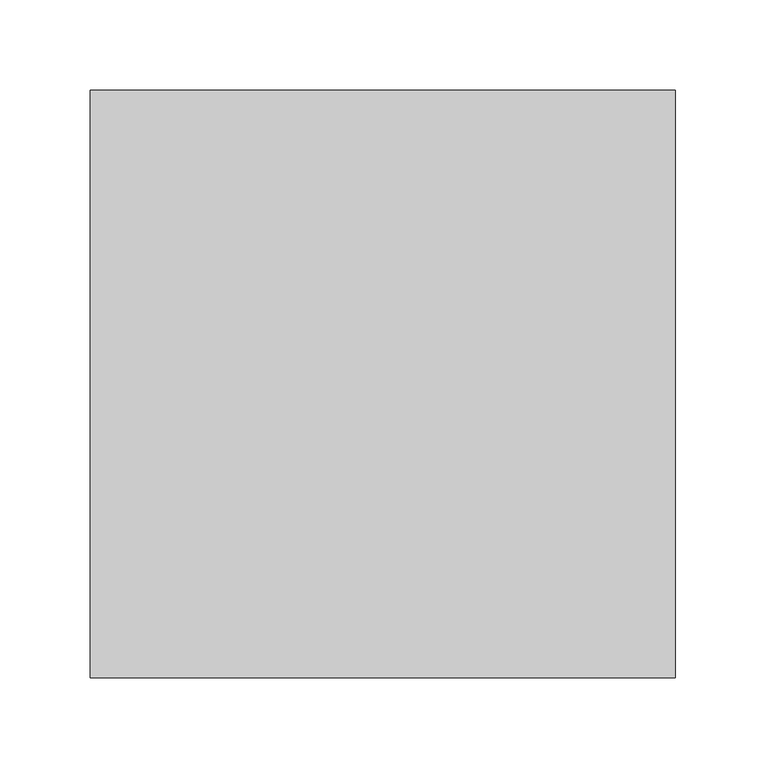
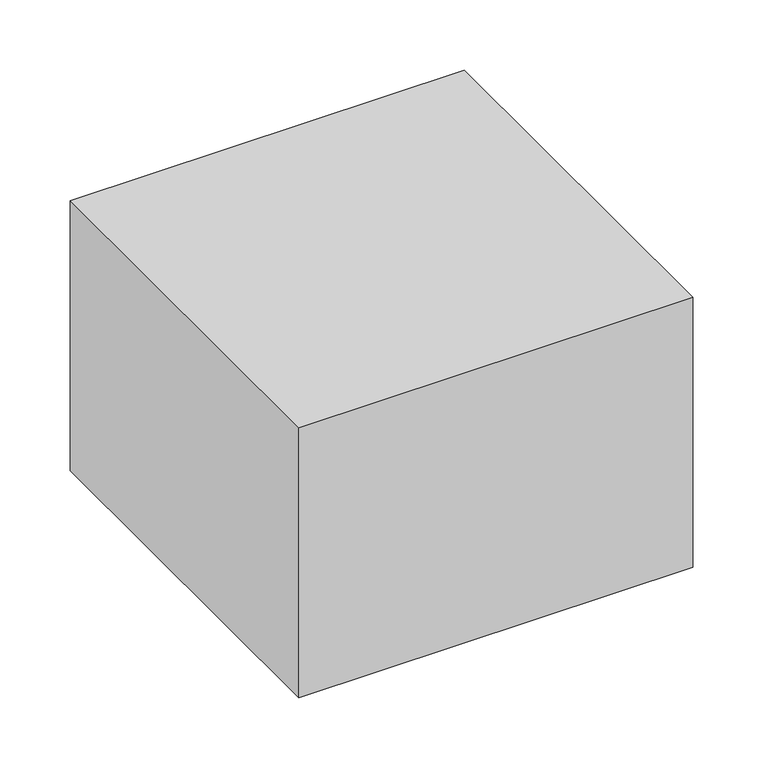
"""IFC4 building model written with IfcOpenShell, lengths in millimetres: column geometry, Column Encasement12 : Column Encasement."""

from ifc_helpers import new_model, si_unit, frame, origin, place, context, project, spatial, polyline, outline, extrude, source, transform, mapped, element, save


def column_3a553e79(model_context):
    return source(origin(), model_context, "Body", "SweptSolid", [
        extrude(outline(polyline([(-31932.1278539, 9578.0975181), (-31932.1278539, 9903.7503001), (-31607.7840629, 9903.7503001), (-31607.7840629, 9578.0975181), (-31932.1278539, 9578.0975181)])), frame((0.0, 0.0, 7.0), z_axis=(0.0, 0.0, 1.0), x_axis=(1.0, 0.0, 0.0)), (0.0, 0.0, 1.0), 235.0),
    ])


if __name__ == "__main__":
    model = new_model("IFC4")
    model_context = context("Model", 3, world=origin())
    ifc_project = project(units=[si_unit("LENGTHUNIT", "METRE", prefix="MILLI")], contexts=[model_context])
    site = spatial("IfcSite", under=ifc_project)
    building = spatial("IfcBuilding", under=site)
    placement = place(None, origin())
    column_shape = column_3a553e79(model_context)
    element("IfcColumn", 1, ObjectType="Column Encasement12 : Column Encasement", at=placement, inside=building, context=model_context, shape_type="MappedRepresentation", body=[
        mapped(column_shape, transform((0.0, 0.0, 0.0), x_axis=(1.0, 0.0, 0.0), y_axis=(0.0, 1.0, 0.0), z_axis=(0.0, 0.0, 1.0))),
    ])
    save(model, "model.ifc")
